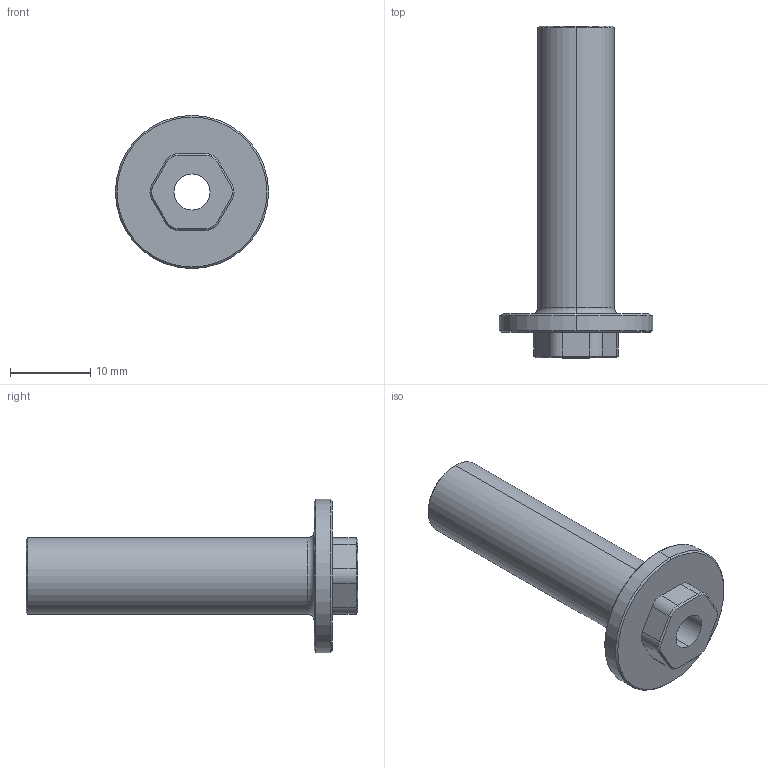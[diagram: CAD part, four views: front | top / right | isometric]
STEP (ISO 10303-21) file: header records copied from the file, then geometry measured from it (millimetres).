
FILE_DESCRIPTION (( 'STEP AP214' ), '1' );
FILE_NAME ('bee-spoke.STEP', '2025-05-13T01:46:59', ( '' ), ( '' ), 'SwSTEP 2.0', 'SolidWorks 2024', '' );
FILE_SCHEMA (( 'AUTOMOTIVE_DESIGN' ));
Length unit declared in the file: inch
Products named in the file (1): bee-spoke
Bounding box: 19.05 x 41.27 x 19.05 mm (x, y, z)
Volume: 2747.2 mm3; surface area: 2516.3 mm2
Topology: 1 solids, 1 shells, 76 faces, 195 edges, 123 vertices
Faces by surface type: cylinder 43, plane 17, cone 12, torus 2, bspline 2
Entity records: 3277 total; most frequent: CARTESIAN_POINT 1577, ORIENTED_EDGE 390, DIRECTION 318, EDGE_CURVE 195, VERTEX_POINT 123, AXIS2_PLACEMENT_3D 115, VECTOR 88, LINE 88
